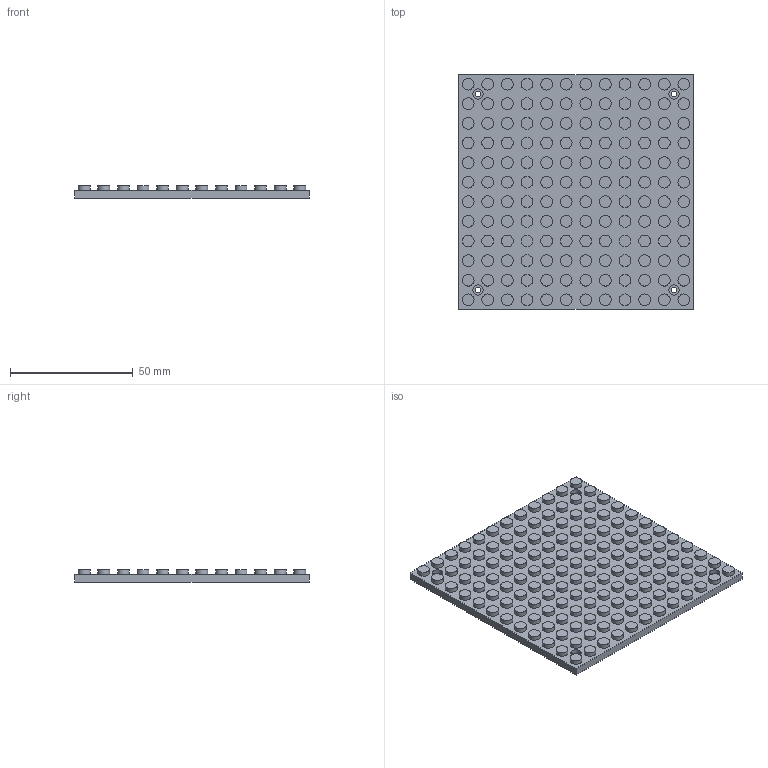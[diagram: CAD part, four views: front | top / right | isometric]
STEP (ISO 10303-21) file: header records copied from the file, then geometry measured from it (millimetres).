
FILE_DESCRIPTION(('Open CASCADE Model'),'2;1');
FILE_NAME('Open CASCADE Shape Model','2026-11-14T12:36:29',('Author'),( 'Open CASCADE'),'Open CASCADE STEP processor 7.9','Open CASCADE 7.9' ,'Unknown');
FILE_SCHEMA(('AUTOMOTIVE_DESIGN { 1 0 10303 214 1 1 1 1 }'));
Length unit declared in the file: millimetre
Products named in the file (1): Open CASCADE STEP translator 7.9 3
Bounding box: 95.8 x 95.8 x 5 mm (x, y, z)
Volume: 33941.2 mm3; surface area: 23586.7 mm2
Topology: 1 solids, 1 shells, 306 faces, 468 edges, 312 vertices
Faces by surface type: plane 154, cylinder 152
Full cylindrical faces by diameter (mm): 2.4 x4, 4.2 x4, 4.8 x144
Entity records: 13078 total; most frequent: DIRECTION 2318, CARTESIAN_POINT 2047, ORIENTED_EDGE 936, PCURVE 936, DEFINITIONAL_REPRESENTATION 936, LINE 796, VECTOR 796, AXIS2_PLACEMENT_3D 611
